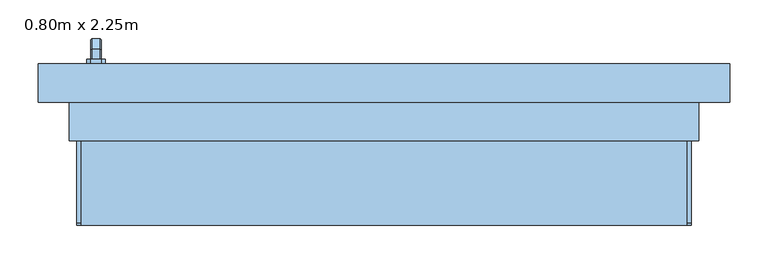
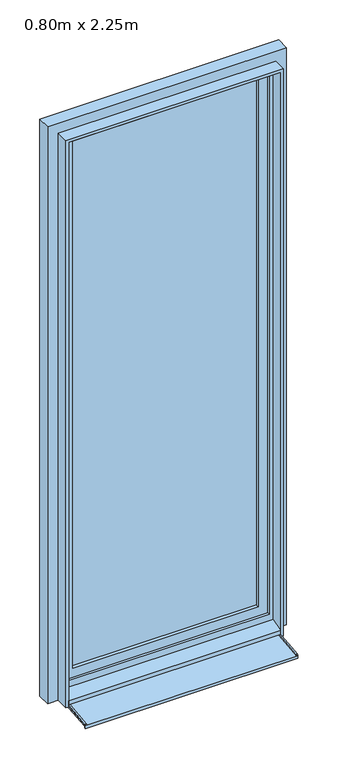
"""IFC4 building model written with IfcOpenShell, lengths in millimetres: window geometry, PF 1 Vantail - Droite : 0.80m x 2.25m."""

from ifc_helpers import new_model, si_unit, point, frame, frame_2d, origin, place, context, project, spatial, polyline, circle_curve, trimmed, segment, composite_curve, outline, extrude, faceted_brep, source, transform, mapped, element, save


def window_0_80m_x_2_25m_5dfc30a4(model_context):
    return source(origin(), model_context, "Body", "SolidModel", [
        faceted_brep([(-369.3539903, 106.0, 1122.0339292), (-380.6460097, 106.0, 1122.0339292), (-382.0339292, 106.0, 1120.6460097), (-382.0339292, 106.0, 1109.3323012), (-380.6676988, 106.0, 1107.9660708), (-369.3323012, 106.0, 1107.9660708), (-367.9660708, 106.0, 1109.3323012), (-367.9660708, 106.0, 1120.6460097), (-367.9660708, 118.3386538, 1120.6460097), (-369.3539903, 118.9135489, 1122.0339292), (-367.9660708, 113.6523623, 1109.3323012), (-367.9660708, 120.3323012, 1102.6523623), (-367.9660708, 120.3323012, 1020.0), (-367.9660708, 131.6460097, 1020.0), (-367.9660708, 131.6460097, 1107.3386538), (-369.3323012, 113.0864511, 1107.9660708), (-380.6676988, 113.0864511, 1107.9660708), (-382.0339292, 113.6523623, 1109.3323012), (-382.0339292, 118.3386538, 1120.6460097), (-382.0339292, 131.6460097, 1107.3386538), (-382.0339292, 131.6460097, 1020.0), (-382.0339292, 120.3323012, 1020.0), (-382.0339292, 120.3323012, 1102.6523623), (-380.6460097, 118.9135489, 1122.0339292), (-369.3539903, 133.0339292, 1107.9135489), (-369.3323012, 118.9660708, 1102.0864511), (-380.6676988, 118.9660708, 1102.0864511), (-380.6460097, 133.0339292, 1107.9135489), (-369.3539903, 133.0339292, 1020.0), (-369.3323012, 118.9660708, 1020.0), (-380.6676988, 118.9660708, 1020.0), (-380.6460097, 133.0339292, 1020.0)], [[[0, 1, 2, 3, 4, 5, 6, 7]], [[7, 8, 9, 0]], [[6, 10, 11, 12, 13, 14, 8, 7]], [[5, 15, 10, 6]], [[4, 16, 15, 5]], [[3, 17, 16, 4]], [[2, 18, 19, 20, 21, 22, 17, 3]], [[1, 23, 18, 2]], [[0, 9, 23, 1]], [[8, 14, 24, 9]], [[15, 25, 11, 10]], [[16, 26, 25, 15]], [[17, 22, 26, 16]], [[23, 27, 19, 18]], [[9, 24, 27, 23]], [[28, 13, 12, 29, 30, 21, 20, 31]], [[14, 13, 28, 24]], [[25, 29, 12, 11]], [[26, 30, 29, 25]], [[22, 21, 30, 26]], [[27, 31, 20, 19]], [[24, 28, 31, 27]]]),
        extrude(outline(polyline([(1140.0, -368.0), (1140.0, -382.0), (1135.0, -387.0), (1065.0, -387.0), (1060.0, -382.0), (1060.0, -368.0), (1065.0, -363.0), (1135.0, -363.0), (1140.0, -368.0)])), frame((0.0, 100.0, 0.0), z_axis=(0.0, 1.0, 0.0), x_axis=(0.0, 0.0, 1.0)), (0.0, 0.0, 1.0), 6.0),
        extrude(outline(polyline([(-110.0288776, 26.588626), (15.0, 39.7296906), (15.0, 50.0), (20.0, 50.0), (20.0, 35.0), (-105.0288776, 21.8589354), (-105.0288776, 16.0359447), (-110.0288776, 15.5104235), (-110.0288776, 26.588626)])), frame((-400.0, 0.0, 0.0), z_axis=(1.0, 0.0, 0.0), x_axis=(0.0, 1.0, 0.0)), (0.0, 0.0, 1.0), 800.0),
        extrude(outline(composite_curve([segment(polyline([(-110.0288776, 26.588626), (-110.0288776, 28.0145512)]), True, "CONTINUOUS"), segment(trimmed(circle_curve(frame_2d((-106.0288776, 28.0145512)), 4.0), [point((-110.0288776, 28.0145512))], [point((-106.4469915, 31.9926388))], False, "CARTESIAN"), True, "CONTINUOUS"), segment(polyline([(-106.4469915, 31.9926388), (15.0, 44.757232), (15.0, 39.7296906), (-110.0288776, 26.588626)]), True, "CONTINUOUS")], self_intersect=False)), frame((-400.0, 0.0, 0.0), z_axis=(1.0, 0.0, 0.0), x_axis=(0.0, 1.0, 0.0)), (0.0, 0.0, 1.0), 5.0),
        extrude(outline(composite_curve([segment(polyline([(-110.0288776, 26.588626), (-110.0288776, 28.0145512)]), True, "CONTINUOUS"), segment(trimmed(circle_curve(frame_2d((-106.0288776, 28.0145512)), 4.0), [point((-110.0288776, 28.0145512))], [point((-106.4469915, 31.9926388))], False, "CARTESIAN"), True, "CONTINUOUS"), segment(polyline([(-106.4469915, 31.9926388), (15.0, 44.757232), (15.0, 39.7296906), (-110.0288776, 26.588626)]), True, "CONTINUOUS")], self_intersect=False)), frame((395.0, 0.0, 0.0), z_axis=(1.0, 0.0, 0.0), x_axis=(0.0, 1.0, 0.0)), (0.0, 0.0, 1.0), 5.0),
        extrude(outline(polyline([(-350.0, 74.0), (-350.0, 86.0), (350.0, 86.0), (350.0, 74.0), (-350.0, 74.0)])), frame((0.0, 0.0, 135.0), z_axis=(0.0, 0.0, 1.0), x_axis=(1.0, 0.0, 0.0)), (0.0, 0.0, 1.0), 2100.0),
        extrude(outline(polyline([(85.0, -400.0), (85.0, 400.0), (2285.0, 400.0), (2285.0, -400.0), (85.0, -400.0)]), holes=[polyline([(135.0, 350.0), (135.0, -350.0), (2235.0, -350.0), (2235.0, 350.0), (135.0, 350.0)])]), frame((0.0, 60.0, 0.0), z_axis=(0.0, 1.0, 0.0), x_axis=(0.0, 0.0, 1.0)), (0.0, 0.0, 1.0), 40.0),
        extrude(outline(polyline([(35.0, -400.0), (2285.0, -400.0), (2285.0, 400.0), (35.0, 400.0), (35.0, 410.0), (2295.0, 410.0), (2295.0, -410.0), (35.0, -410.0), (35.0, -400.0)])), frame((0.0, 0.0, 0.0), z_axis=(0.0, 1.0, 0.0), x_axis=(0.0, 0.0, 1.0)), (0.0, 0.0, 1.0), 50.0),
        faceted_brep([(-450.0, 100.0, 35.0), (450.0, 100.0, 35.0), (450.0, 50.0, 35.0), (400.0, 50.0, 35.0), (400.0, 20.0, 35.0), (-400.0, 20.0, 35.0), (-400.0, 50.0, 35.0), (-450.0, 50.0, 35.0), (-450.0, 50.0, 2335.0), (-450.0, 100.0, 2335.0), (-400.0, 50.0, 74.3761425), (400.0, 50.0, 74.3761425), (450.0, 50.0, 2335.0), (-385.0, 50.0, 2270.0), (385.0, 50.0, 2270.0), (385.0, 50.0, 100.0), (-385.0, 50.0, 100.0), (-400.0, 20.0, 50.0), (-400.0, 10.0, 50.0), (-400.0, 10.0, 45.0), (-400.0, 0.0, 45.0), (-400.0, 0.0, 60.9786829), (400.0, 20.0, 50.0), (400.0, 0.0, 60.9786829), (400.0, 0.0, 45.0), (400.0, 10.0, 45.0), (400.0, 10.0, 50.0), (450.0, 100.0, 2335.0), (400.0, 100.0, 2285.0), (-400.0, 100.0, 2285.0), (-400.0, 100.0, 85.0), (400.0, 100.0, 85.0), (-385.0, 60.0, 100.0), (-385.0, 60.0, 2270.0), (385.0, 60.0, 100.0), (385.0, 60.0, 2270.0), (400.0, 60.0, 2285.0), (400.0, 60.0, 85.0), (-400.0, 60.0, 85.0), (-400.0, 60.0, 2285.0)], [[[0, 1, 2, 3, 4, 5, 6, 7]], [[7, 8, 9, 0]], [[7, 6, 10, 11, 3, 2, 12, 8], [13, 14, 15, 16]], [[10, 6, 5, 17, 18, 19, 20, 21]], [[5, 4, 22, 17]], [[4, 3, 11, 23, 24, 25, 26, 22]], [[2, 1, 27, 12]], [[0, 9, 27, 1], [28, 29, 30, 31]], [[13, 16, 32, 33]], [[32, 16, 15, 34]], [[35, 34, 15, 14]], [[21, 23, 11, 10]], [[36, 37, 38, 39], [33, 32, 34, 35]], [[38, 30, 29, 39]], [[30, 38, 37, 31]], [[28, 31, 37, 36]], [[20, 24, 23, 21]], [[19, 25, 24, 20]], [[18, 26, 25, 19]], [[17, 22, 26, 18]], [[12, 27, 9, 8]], [[13, 33, 35, 14]], [[39, 29, 28, 36]]]),
    ])


if __name__ == "__main__":
    model = new_model("IFC4")
    model_context = context("Model", 3, world=origin())
    ifc_project = project(units=[si_unit("LENGTHUNIT", "METRE", prefix="MILLI")], contexts=[model_context])
    site = spatial("IfcSite", under=ifc_project)
    building = spatial("IfcBuilding", under=site)
    placement = place(None, origin())
    window_0_80m_x_2_25m_shape = window_0_80m_x_2_25m_5dfc30a4(model_context)
    element("IfcWindow", 1, ObjectType="PF 1 Vantail - Droite : 0.80m x 2.25m", at=placement, inside=building, context=model_context, shape_type="MappedRepresentation", body=[
        mapped(window_0_80m_x_2_25m_shape, transform((0.0, 0.0, 0.0), x_axis=(1.0, 0.0, 0.0), y_axis=(0.0, 1.0, 0.0), z_axis=(0.0, 0.0, 1.0))),
    ])
    save(model, "model.ifc")
